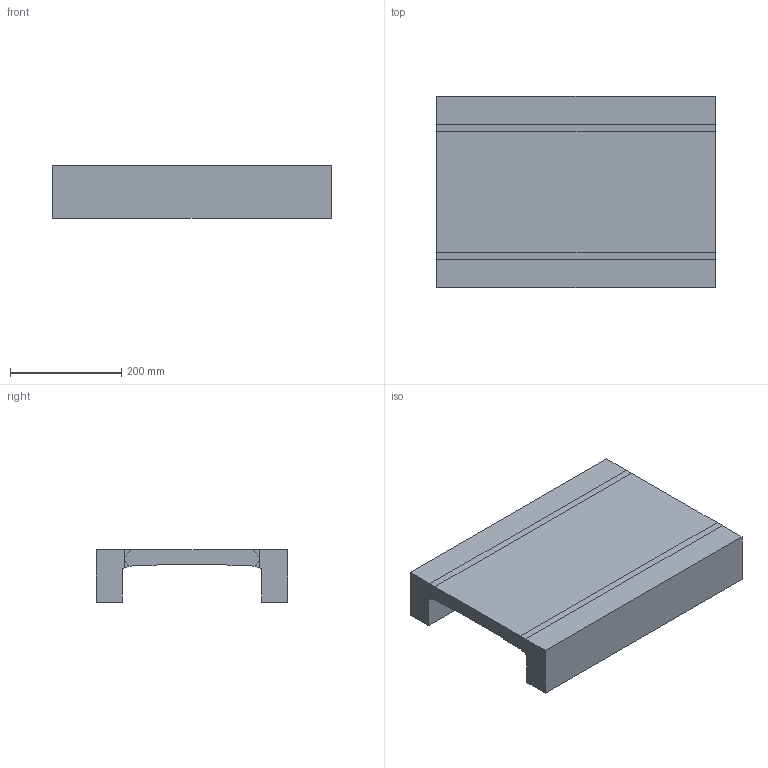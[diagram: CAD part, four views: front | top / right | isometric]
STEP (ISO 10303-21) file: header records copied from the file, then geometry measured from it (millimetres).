
FILE_DESCRIPTION((''),'2;1');
FILE_NAME('Z:\Kataloge\Katalog 109\Inventor-Dateien\Mammutrollen+MPI+MPU-Profile\ALFATEC_MPU_250_000.stp','2009-09-14T09:30:29',('Kircher'),(''),'Autodesk Inventor 2010','Autodesk Inventor 2010','');
FILE_SCHEMA(('CONFIG_CONTROL_DESIGN'));
Length unit declared in the file: millimetre
Products named in the file (4): ALFATEC_MPU_250_000; ALFATEC_MPU_250-Teil 1; ALFATEC_MPU_250-Teil 2; ALFATEC_MPU_250-Teil 3
Assembly tree (3 placements, depth 2):
  ALFATEC_MPU_250_000
    ALFATEC_MPU_250-Teil 1
    ALFATEC_MPU_250-Teil 2
    ALFATEC_MPU_250-Teil 3
Bounding box: 500 x 344 x 94 mm (x, y, z)
Volume: 7886952.4 mm3; surface area: 661147.5 mm2
Topology: 7 solids, 7 shells, 52 faces, 114 edges, 76 vertices
Faces by surface type: plane 50, cylinder 2
Entity records: 1529 total; most frequent: CARTESIAN_POINT 249, DIRECTION 236, ORIENTED_EDGE 228, EDGE_CURVE 114, VECTOR 110, LINE 110, VERTEX_POINT 76, AXIS2_PLACEMENT_3D 63
